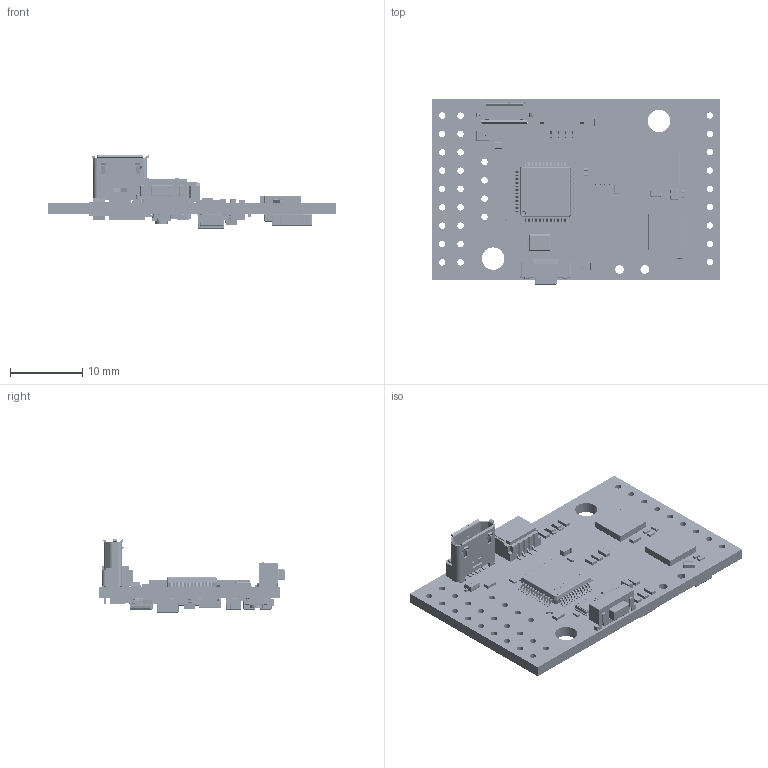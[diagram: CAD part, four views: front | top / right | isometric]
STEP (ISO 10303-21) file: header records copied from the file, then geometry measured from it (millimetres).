
FILE_DESCRIPTION(/* description */ (''),/* implementation_level */ '2;1');
FILE_NAME(/* name */ 'Tiny_revD_v2_6.step',/* time_stamp */ '2026-09-11T12:10:43+03:00',/* author */ (''),/* organization */ (''),/* preprocessor_version */ 'ST-DEVELOPER v20.2',/* originating_system */ 'Autodesk Translation Framework v15.15.0.0',/* authorisation */ '');
FILE_SCHEMA (('AUTOMOTIVE_DESIGN { 1 0 10303 214 3 1 1 }'));
Products named in the file (123): PCB; Board; Open CASCADE STEP translator 7.5 1.1.1; J1; Micro USB B Molex 1051330011; C39; C34; C26; C21; C16; C5; 1206 SMD Capacitor_2; R20; C35; R9; R10; R2; R1; C4; C33; C32; C31; U2; CP2102N QFN2 v9; C1; XTAL1; 8MHz_3.2x2.5 crystal; U11; U10; U9; MP6540H; S1; STP_4351x10148xx (rev1); Base; Stem; Frame; Pin; R21; C30; C29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
Assembly tree (182 placements, depth 4):
  PCB
    Board
      Open CASCADE STEP translator 7.5 1.1.1
    J1
      Micro USB B Molex 1051330011
    C39
      CAPC1608X___
    C34
      1206 SMD Capacitor_2
    C26
      1206 SMD Capacitor_2
    C21
      1206 SMD Capacitor_2
    C16
      1206 SMD Capacitor_2
    C5
      1206 SMD Capacitor_2
    R20
      CR1005-0402
    C35
      0402C
    R9
      CR1005-0402
    R10
      CR1005-0402
    R2
      CR1005-0402
    R1
      CR1005-0402
    C4
      0402C
    C33
      0402C
    C32
      0402C
    C31
      0402C
    U2
      CP2102N QFN2 v9
    C1
      0402C
    XTAL1
      8MHz_3.2x2.5 crystal
    U11
      MP6540H
    U10
      MP6540H
    U9
      MP6540H
    S1
      STP_4351x10148xx (rev1)
        Base
        Stem
        Frame
        Pin  x4
    R21
      CR1005-0402
    C30
      0402C
    C29
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Bounding box: 40 x 25.68 x 10.21 mm (x, y, z)
Volume: 1923.4 mm3; surface area: 5092 mm2
Topology: 332 solids, 334 shells, 12178 faces, 30274 edges, 18901 vertices
Faces by surface type: plane 5821, bspline 3005, cylinder 2846, sphere 408, torus 71, cone 27
Full cylindrical faces by diameter (mm): 0.1 x2, 0.15 x1, 0.2 x2, 0.35 x6, 0.75 x1, 0.8 x1, 0.9 x31, 1 x62, 1.2 x2, 1.4 x4, 1.5 x108, 1.7 x1, 1.85 x1, 2.2 x8, 3.1 x2, 3.25 x4, 4.8 x8
Entity records: 205834 total; most frequent: CARTESIAN_POINT 60754, ORIENTED_EDGE 30237, DIRECTION 26593, EDGE_CURVE 15120, LINE 10309, VECTOR 10309, VERTEX_POINT 9833, AXIS2_PLACEMENT_3D 8142
